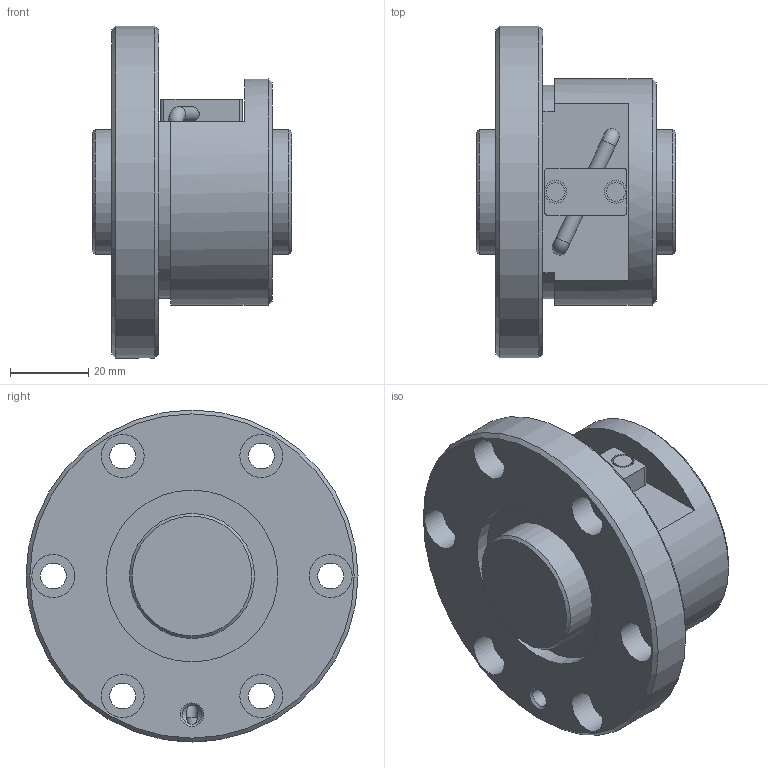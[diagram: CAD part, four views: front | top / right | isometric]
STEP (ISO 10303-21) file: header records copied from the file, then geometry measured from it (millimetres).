
FILE_DESCRIPTION(/* description */ ('STEP AP203'),/* implementation_level */ '2;1');
FILE_NAME(/* name */ 'BNF3205V-2.5RRG1+51LC0_000_rev',/* time_stamp */ '2024-08-06T07:36:21+02:00',/* author */ ('License CC BY-ND 4.0'),/* organization */ ('CADENAS'),/* preprocessor_version */ 'ST-DEVELOPER v19.3',/* originating_system */ 'PARTsolutions',/* authorisation */ ' ');
FILE_SCHEMA (('CONFIG_CONTROL_DESIGN'));
Length unit declared in the file: millimetre
Products named in the file (3): BNF3205V-2.5RRG1+51LC0_000_rev; BNF 3205-2.5RR000 Shaft; BNF 3205-2.5RR Nut
Assembly tree (2 placements, depth 2):
  BNF3205V-2.5RRG1+51LC0_000_rev
    BNF 3205-2.5RR000 Shaft
    BNF 3205-2.5RR Nut
Bounding box: 51 x 85 x 85 mm (x, y, z)
Volume: 135424.8 mm3; surface area: 32434.4 mm2
Topology: 2 solids, 2 shells, 70 faces, 158 edges, 103 vertices
Faces by surface type: cylinder 33, plane 27, cone 8, torus 2
Full cylindrical faces by diameter (mm): 3 x2, 3.865 x2, 4.8 x2, 4.917 x1, 6.6 x6, 11 x6, 32 x2, 44 x2, 58 x1, 85 x1
Entity records: 1859 total; most frequent: CARTESIAN_POINT 325, DIRECTION 324, ORIENTED_EDGE 226, AXIS2_PLACEMENT_3D 146, EDGE_LOOP 136, FACE_BOUND 136, EDGE_CURVE 113, VERTEX_POINT 93
